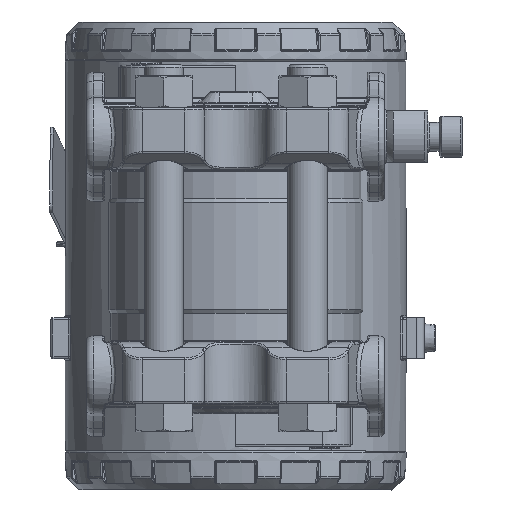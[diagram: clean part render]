
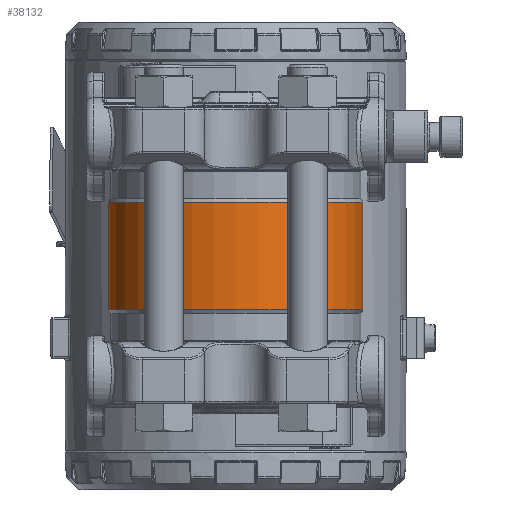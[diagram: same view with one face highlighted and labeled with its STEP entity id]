
A CAD part, left-side view. The second image highlights one B-rep face of the part: STEP entity #38132.
In plain terms, the highlighted cylindrical face has radius 31 mm (diameter 62 mm), a full revolution.
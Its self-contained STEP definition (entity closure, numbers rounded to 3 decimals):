
#2312=B_SPLINE_CURVE_WITH_KNOTS('',3,(#68958,#68959,#68960,#68961,#68962,
#68963),.UNSPECIFIED.,.F.,.F.,(4,1,1,4),(0.,0.548,0.913,
1.279),.UNSPECIFIED.);
#2313=B_SPLINE_CURVE_WITH_KNOTS('',3,(#69007,#69008,#69009,#69010,#69011,
#69012,#69013),.UNSPECIFIED.,.F.,.F.,(4,1,1,1,4),(0.,0.274,
0.548,0.913,1.279),.UNSPECIFIED.);
#2314=B_SPLINE_CURVE_WITH_KNOTS('',3,(#69050,#69051,#69052,#69053,#69054,
#69055),.UNSPECIFIED.,.F.,.F.,(4,1,1,4),(0.,0.548,0.913,
1.279),.UNSPECIFIED.);
#2315=B_SPLINE_CURVE_WITH_KNOTS('',3,(#69097,#69098,#69099,#69100,#69101,
#69102,#69103),.UNSPECIFIED.,.F.,.F.,(4,1,1,1,4),(0.,
0.274,0.548,0.913,1.279),
 .UNSPECIFIED.);
#3911=CYLINDRICAL_SURFACE('',#42128,31.);
#5168=FACE_OUTER_BOUND('',#7736,.T.);
#7736=EDGE_LOOP('',(#29035,#29036,#29037,#29038,#29039,#29040,#29041,#29042,
#29043,#29044,#29045,#29046,#29047,#29048,#29049,#29050,#29051,#29052));
#9922=LINE('',#68925,#11298);
#9923=LINE('',#69017,#11299);
#9924=LINE('',#69105,#11300);
#9925=LINE('',#69106,#11301);
#11298=VECTOR('',#49530,10.);
#11299=VECTOR('',#49547,10.);
#11300=VECTOR('',#49560,31.);
#11301=VECTOR('',#49561,31.);
#13233=CIRCLE('',#41982,31.);
#13234=CIRCLE('',#41983,31.);
#13239=CIRCLE('',#41990,31.);
#13240=CIRCLE('',#41991,31.);
#13313=CIRCLE('',#42118,31.);
#13314=CIRCLE('',#42119,31.);
#13319=CIRCLE('',#42126,31.);
#13320=CIRCLE('',#42127,31.);
#16387=VERTEX_POINT('',#68409);
#16388=VERTEX_POINT('',#68410);
#16394=VERTEX_POINT('',#68426);
#16395=VERTEX_POINT('',#68428);
#16474=VERTEX_POINT('',#68921);
#16475=VERTEX_POINT('',#68923);
#16476=VERTEX_POINT('',#68956);
#16477=VERTEX_POINT('',#68965);
#16478=VERTEX_POINT('',#68967);
#16479=VERTEX_POINT('',#69005);
#16480=VERTEX_POINT('',#69015);
#16481=VERTEX_POINT('',#69048);
#16482=VERTEX_POINT('',#69057);
#16483=VERTEX_POINT('',#69059);
#20760=EDGE_CURVE('',#16387,#16388,#13233,.T.);
#20761=EDGE_CURVE('',#16388,#16387,#13234,.T.);
#20769=EDGE_CURVE('',#16395,#16394,#13239,.T.);
#20770=EDGE_CURVE('',#16394,#16395,#13240,.T.);
#20895=EDGE_CURVE('',#16475,#16474,#9922,.T.);
#20897=EDGE_CURVE('',#16476,#16475,#2312,.T.);
#20899=EDGE_CURVE('',#16477,#16478,#13313,.T.);
#20900=EDGE_CURVE('',#16478,#16476,#13314,.T.);
#20902=EDGE_CURVE('',#16479,#16477,#2313,.T.);
#20904=EDGE_CURVE('',#16480,#16479,#9923,.T.);
#20906=EDGE_CURVE('',#16481,#16480,#2314,.T.);
#20908=EDGE_CURVE('',#16482,#16483,#13319,.T.);
#20909=EDGE_CURVE('',#16483,#16481,#13320,.T.);
#20910=EDGE_CURVE('',#16474,#16482,#2315,.T.);
#20911=EDGE_CURVE('',#16395,#16483,#9924,.T.);
#20912=EDGE_CURVE('',#16478,#16387,#9925,.T.);
#29035=ORIENTED_EDGE('',*,*,#20769,.T.);
#29036=ORIENTED_EDGE('',*,*,#20770,.T.);
#29037=ORIENTED_EDGE('',*,*,#20911,.T.);
#29038=ORIENTED_EDGE('',*,*,#20908,.F.);
#29039=ORIENTED_EDGE('',*,*,#20910,.F.);
#29040=ORIENTED_EDGE('',*,*,#20895,.F.);
#29041=ORIENTED_EDGE('',*,*,#20897,.F.);
#29042=ORIENTED_EDGE('',*,*,#20900,.F.);
#29043=ORIENTED_EDGE('',*,*,#20912,.T.);
#29044=ORIENTED_EDGE('',*,*,#20760,.T.);
#29045=ORIENTED_EDGE('',*,*,#20761,.T.);
#29046=ORIENTED_EDGE('',*,*,#20912,.F.);
#29047=ORIENTED_EDGE('',*,*,#20899,.F.);
#29048=ORIENTED_EDGE('',*,*,#20902,.F.);
#29049=ORIENTED_EDGE('',*,*,#20904,.F.);
#29050=ORIENTED_EDGE('',*,*,#20906,.F.);
#29051=ORIENTED_EDGE('',*,*,#20909,.F.);
#29052=ORIENTED_EDGE('',*,*,#20911,.F.);
#38132=ADVANCED_FACE('',(#5168),#3911,.T.);
#41982=AXIS2_PLACEMENT_3D('',#68411,#49223,#49224);
#41983=AXIS2_PLACEMENT_3D('',#68412,#49225,#49226);
#41990=AXIS2_PLACEMENT_3D('',#68429,#49242,#49243);
#41991=AXIS2_PLACEMENT_3D('',#68430,#49244,#49245);
#42118=AXIS2_PLACEMENT_3D('',#68968,#49537,#49538);
#42119=AXIS2_PLACEMENT_3D('',#68969,#49539,#49540);
#42126=AXIS2_PLACEMENT_3D('',#69060,#49554,#49555);
#42127=AXIS2_PLACEMENT_3D('',#69061,#49556,#49557);
#42128=AXIS2_PLACEMENT_3D('',#69104,#49558,#49559);
#49223=DIRECTION('center_axis',(0.,0.,1.));
#49224=DIRECTION('ref_axis',(-1.,0.,0.));
#49225=DIRECTION('center_axis',(0.,0.,1.));
#49226=DIRECTION('ref_axis',(-1.,0.,0.));
#49242=DIRECTION('center_axis',(0.,0.,-1.));
#49243=DIRECTION('ref_axis',(-1.,0.,0.));
#49244=DIRECTION('center_axis',(0.,0.,-1.));
#49245=DIRECTION('ref_axis',(-1.,0.,0.));
#49530=DIRECTION('',(0.,0.,1.));
#49537=DIRECTION('center_axis',(0.,0.,1.));
#49538=DIRECTION('ref_axis',(1.,0.,0.));
#49539=DIRECTION('center_axis',(0.,0.,1.));
#49540=DIRECTION('ref_axis',(1.,0.,0.));
#49547=DIRECTION('',(0.,0.,-1.));
#49554=DIRECTION('center_axis',(0.,0.,-1.));
#49555=DIRECTION('ref_axis',(1.,0.,0.));
#49556=DIRECTION('center_axis',(0.,0.,-1.));
#49557=DIRECTION('ref_axis',(1.,0.,0.));
#49558=DIRECTION('center_axis',(0.,0.,1.));
#49559=DIRECTION('ref_axis',(-1.,0.,0.));
#49560=DIRECTION('',(0.,0.,-1.));
#49561=DIRECTION('',(0.,0.,-1.));
#68409=CARTESIAN_POINT('',(31.,0.,-13.134));
#68410=CARTESIAN_POINT('',(-31.,0.,-13.134));
#68411=CARTESIAN_POINT('Origin',(0.,0.,-13.134));
#68412=CARTESIAN_POINT('Origin',(0.,0.,-13.134));
#68426=CARTESIAN_POINT('',(-31.,0.,13.134));
#68428=CARTESIAN_POINT('',(31.,0.,13.134));
#68429=CARTESIAN_POINT('Origin',(0.,0.,13.134));
#68430=CARTESIAN_POINT('Origin',(0.,0.,13.134));
#68921=CARTESIAN_POINT('',(28.645,11.853,5.));
#68923=CARTESIAN_POINT('',(28.645,11.853,-5.));
#68925=CARTESIAN_POINT('',(28.645,11.853,0.));
#68956=CARTESIAN_POINT('',(30.663,4.559,-13.));
#68958=CARTESIAN_POINT('Ctrl Pts',(30.663,4.559,-13.));
#68959=CARTESIAN_POINT('Ctrl Pts',(30.418,6.206,-13.));
#68960=CARTESIAN_POINT('Ctrl Pts',(29.764,8.89,-11.953));
#68961=CARTESIAN_POINT('Ctrl Pts',(28.867,11.328,-8.643));
#68962=CARTESIAN_POINT('Ctrl Pts',(28.645,11.853,-6.218));
#68963=CARTESIAN_POINT('Ctrl Pts',(28.645,11.853,-5.));
#68965=CARTESIAN_POINT('',(30.663,-4.559,-13.));
#68967=CARTESIAN_POINT('',(31.,0.,-13.));
#68968=CARTESIAN_POINT('Origin',(0.,0.,-13.));
#68969=CARTESIAN_POINT('Origin',(0.,0.,-13.));
#69005=CARTESIAN_POINT('',(28.645,-11.853,-5.));
#69007=CARTESIAN_POINT('Ctrl Pts',(28.645,-11.853,-5.));
#69008=CARTESIAN_POINT('Ctrl Pts',(28.645,-11.853,-5.913));
#69009=CARTESIAN_POINT('Ctrl Pts',(28.767,-11.563,-7.738));
#69010=CARTESIAN_POINT('Ctrl Pts',(29.292,-10.206,-10.383));
#69011=CARTESIAN_POINT('Ctrl Pts',(30.048,-7.829,-12.448));
#69012=CARTESIAN_POINT('Ctrl Pts',(30.5,-5.657,-13.));
#69013=CARTESIAN_POINT('Ctrl Pts',(30.663,-4.559,-13.));
#69015=CARTESIAN_POINT('',(28.645,-11.853,5.));
#69017=CARTESIAN_POINT('',(28.645,-11.853,0.));
#69048=CARTESIAN_POINT('',(30.663,-4.559,13.));
#69050=CARTESIAN_POINT('Ctrl Pts',(30.663,-4.559,13.));
#69051=CARTESIAN_POINT('Ctrl Pts',(30.418,-6.206,13.));
#69052=CARTESIAN_POINT('Ctrl Pts',(29.764,-8.89,11.953));
#69053=CARTESIAN_POINT('Ctrl Pts',(28.867,-11.328,8.643));
#69054=CARTESIAN_POINT('Ctrl Pts',(28.645,-11.853,6.218));
#69055=CARTESIAN_POINT('Ctrl Pts',(28.645,-11.853,5.));
#69057=CARTESIAN_POINT('',(30.663,4.559,13.));
#69059=CARTESIAN_POINT('',(31.,0.,13.));
#69060=CARTESIAN_POINT('Origin',(0.,0.,13.));
#69061=CARTESIAN_POINT('Origin',(0.,0.,13.));
#69097=CARTESIAN_POINT('Ctrl Pts',(28.645,11.853,5.));
#69098=CARTESIAN_POINT('Ctrl Pts',(28.645,11.853,5.913));
#69099=CARTESIAN_POINT('Ctrl Pts',(28.767,11.563,7.738));
#69100=CARTESIAN_POINT('Ctrl Pts',(29.292,10.206,10.383));
#69101=CARTESIAN_POINT('Ctrl Pts',(30.048,7.829,12.448));
#69102=CARTESIAN_POINT('Ctrl Pts',(30.5,5.657,13.));
#69103=CARTESIAN_POINT('Ctrl Pts',(30.663,4.559,13.));
#69104=CARTESIAN_POINT('Origin',(0.,0.,0.));
#69105=CARTESIAN_POINT('',(31.,0.,0.));
#69106=CARTESIAN_POINT('',(31.,0.,0.));
